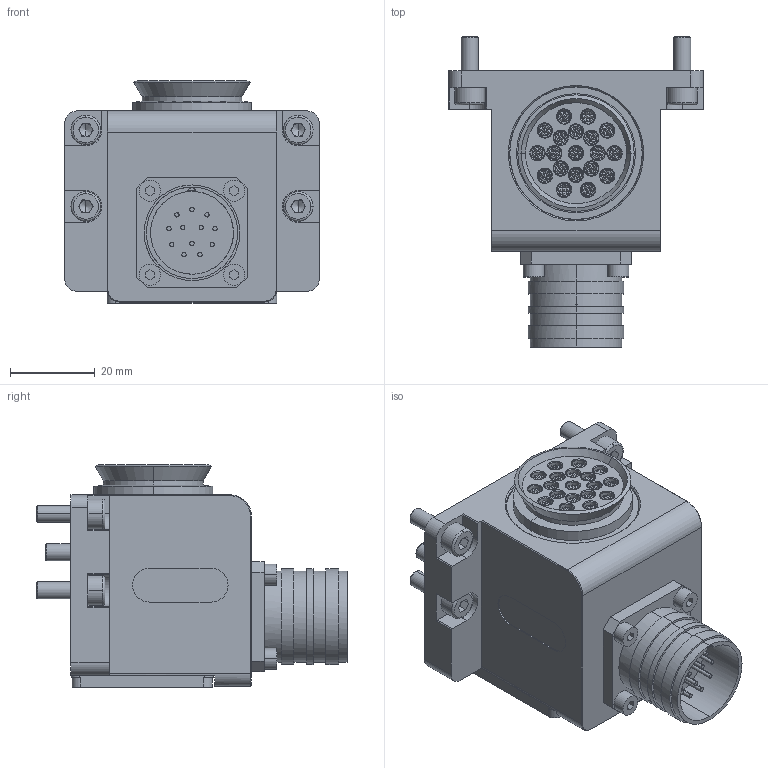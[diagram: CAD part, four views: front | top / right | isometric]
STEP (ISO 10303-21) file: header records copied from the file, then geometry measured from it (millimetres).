
FILE_DESCRIPTION (( 'STEP AP203' ), '1' );
FILE_NAME ('QCSM-12R.STEP', '2023-12-27T09:14:19', ( '微软用户' ), ( '微软中国' ), 'SwSTEP 2.0', 'SolidWorks 2018', '' );
FILE_SCHEMA (( 'CONFIG_CONTROL_DESIGN' ));
Length unit declared in the file: millimetre
Products named in the file (1): QCSM-12R
Bounding box: 60 x 73 x 52.4 mm (x, y, z)
Volume: 114850.6 mm3; surface area: 29302.3 mm2
Topology: 6 solids, 6 shells, 1244 faces, 2909 edges, 1788 vertices
Faces by surface type: plane 783, cylinder 318, cone 129, torus 12, bspline 2
Entity records: 40557 total; most frequent: CARTESIAN_POINT 15606, ORIENTED_EDGE 5754, DIRECTION 3984, EDGE_CURVE 2877, B_SPLINE_CURVE_WITH_KNOTS 1806, VERTEX_POINT 1784, AXIS2_PLACEMENT_3D 1674, EDGE_LOOP 1397
